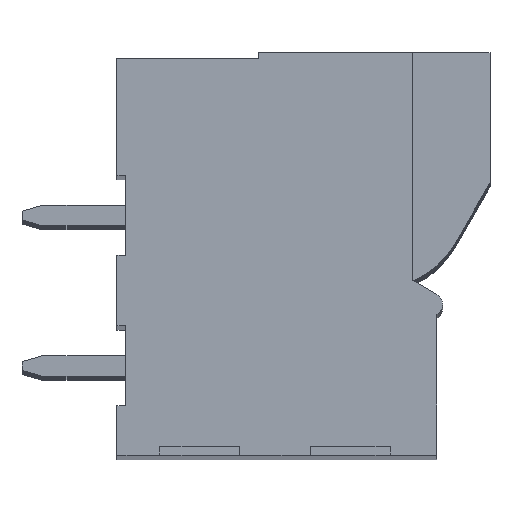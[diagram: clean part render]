
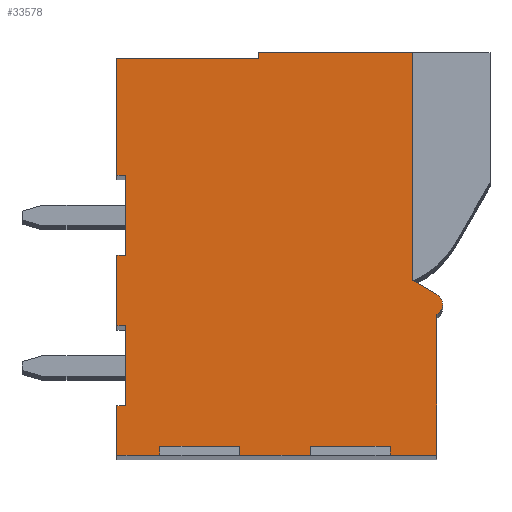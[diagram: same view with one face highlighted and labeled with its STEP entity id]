
A CAD part, top view. The second image highlights one B-rep face of the part: STEP entity #33578.
In plain terms, the highlighted planar face has unit normal (0, 0, 1).
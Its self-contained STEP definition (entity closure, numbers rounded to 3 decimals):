
#6372=CARTESIAN_POINT('',(10.604,5.094,0.));
#6373=DIRECTION('',(0.,0.,1.));
#6374=DIRECTION('',(0.495,-0.869,0.));
#6375=AXIS2_PLACEMENT_3D('',#6372,#6373,#6374);
#6377=DIRECTION('',(0.,1.,0.));
#6378=VECTOR('',#6377,0.2);
#6379=CARTESIAN_POINT('',(4.8,13.4,0.));
#6380=LINE('',#6379,#6378);
#6381=DIRECTION('',(1.,0.,0.));
#6382=VECTOR('',#6381,5.2);
#6383=CARTESIAN_POINT('',(4.8,13.6,0.));
#6384=LINE('',#6383,#6382);
#6385=DIRECTION('',(0.,-1.,0.));
#6386=VECTOR('',#6385,7.7);
#6387=CARTESIAN_POINT('',(10.,13.6,0.));
#6388=LINE('',#6387,#6386);
#6389=DIRECTION('',(0.866,-0.5,0.));
#6390=VECTOR('',#6389,0.926);
#6391=CARTESIAN_POINT('',(10.,5.9,0.));
#6392=LINE('',#6391,#6390);
#6393=DIRECTION('',(0.,-1.,0.));
#6394=VECTOR('',#6393,4.75);
#6395=CARTESIAN_POINT('',(10.8,4.75,0.));
#6396=LINE('',#6395,#6394);
#6397=DIRECTION('',(-1.,0.,0.));
#6398=VECTOR('',#6397,1.57);
#6399=CARTESIAN_POINT('',(10.8,0.,0.));
#6400=LINE('',#6399,#6398);
#6401=DIRECTION('',(0.,1.,0.));
#6402=VECTOR('',#6401,0.3);
#6403=CARTESIAN_POINT('',(9.23,0.,0.));
#6404=LINE('',#6403,#6402);
#6405=DIRECTION('',(-1.,0.,0.));
#6406=VECTOR('',#6405,2.7);
#6407=CARTESIAN_POINT('',(9.23,0.3,0.));
#6408=LINE('',#6407,#6406);
#6409=DIRECTION('',(0.,-1.,0.));
#6410=VECTOR('',#6409,0.3);
#6411=CARTESIAN_POINT('',(6.53,0.3,0.));
#6412=LINE('',#6411,#6410);
#6413=DIRECTION('',(-1.,0.,0.));
#6414=VECTOR('',#6413,2.38);
#6415=CARTESIAN_POINT('',(6.53,0.,0.));
#6416=LINE('',#6415,#6414);
#6417=DIRECTION('',(0.,1.,0.));
#6418=VECTOR('',#6417,0.3);
#6419=CARTESIAN_POINT('',(4.15,0.,0.));
#6420=LINE('',#6419,#6418);
#6421=DIRECTION('',(-1.,0.,0.));
#6422=VECTOR('',#6421,2.7);
#6423=CARTESIAN_POINT('',(4.15,0.3,0.));
#6424=LINE('',#6423,#6422);
#6425=DIRECTION('',(0.,-1.,0.));
#6426=VECTOR('',#6425,0.3);
#6427=CARTESIAN_POINT('',(1.45,0.3,0.));
#6428=LINE('',#6427,#6426);
#6429=DIRECTION('',(-1.,0.,0.));
#6430=VECTOR('',#6429,1.45);
#6431=CARTESIAN_POINT('',(1.45,0.,0.));
#6432=LINE('',#6431,#6430);
#6433=DIRECTION('',(0.,1.,0.));
#6434=VECTOR('',#6433,1.67);
#6435=CARTESIAN_POINT('',(0.,0.,0.));
#6436=LINE('',#6435,#6434);
#6437=DIRECTION('',(1.,0.,0.));
#6438=VECTOR('',#6437,0.3);
#6439=CARTESIAN_POINT('',(0.,1.67,0.));
#6440=LINE('',#6439,#6438);
#6441=DIRECTION('',(0.,1.,0.));
#6442=VECTOR('',#6441,2.7);
#6443=CARTESIAN_POINT('',(0.3,1.67,0.));
#6444=LINE('',#6443,#6442);
#6445=DIRECTION('',(-1.,0.,0.));
#6446=VECTOR('',#6445,0.3);
#6447=CARTESIAN_POINT('',(0.3,4.37,0.));
#6448=LINE('',#6447,#6446);
#6449=DIRECTION('',(0.,1.,0.));
#6450=VECTOR('',#6449,2.38);
#6451=CARTESIAN_POINT('',(0.,4.37,0.));
#6452=LINE('',#6451,#6450);
#6453=DIRECTION('',(1.,0.,0.));
#6454=VECTOR('',#6453,0.3);
#6455=CARTESIAN_POINT('',(0.,6.75,0.));
#6456=LINE('',#6455,#6454);
#6457=DIRECTION('',(0.,1.,0.));
#6458=VECTOR('',#6457,2.7);
#6459=CARTESIAN_POINT('',(0.3,6.75,0.));
#6460=LINE('',#6459,#6458);
#6461=DIRECTION('',(-1.,0.,0.));
#6462=VECTOR('',#6461,0.3);
#6463=CARTESIAN_POINT('',(0.3,9.45,0.));
#6464=LINE('',#6463,#6462);
#6465=DIRECTION('',(0.,1.,0.));
#6466=VECTOR('',#6465,3.95);
#6467=CARTESIAN_POINT('',(0.,9.45,0.));
#6468=LINE('',#6467,#6466);
#6469=DIRECTION('',(1.,0.,0.));
#6470=VECTOR('',#6469,4.8);
#6471=CARTESIAN_POINT('',(0.,13.4,0.));
#6472=LINE('',#6471,#6470);
#18735=CARTESIAN_POINT('',(10.,13.6,0.));
#18736=CARTESIAN_POINT('',(10.,5.9,0.));
#18737=VERTEX_POINT('',#18735);
#18738=VERTEX_POINT('',#18736);
#18739=CARTESIAN_POINT('',(4.8,13.6,0.));
#18740=VERTEX_POINT('',#18739);
#18741=CARTESIAN_POINT('',(4.8,13.4,0.));
#18742=VERTEX_POINT('',#18741);
#18743=CARTESIAN_POINT('',(0.,13.4,0.));
#18744=VERTEX_POINT('',#18743);
#18745=CARTESIAN_POINT('',(0.,9.45,0.));
#18746=VERTEX_POINT('',#18745);
#18747=CARTESIAN_POINT('',(0.3,9.45,0.));
#18748=VERTEX_POINT('',#18747);
#18749=CARTESIAN_POINT('',(0.3,6.75,0.));
#18750=VERTEX_POINT('',#18749);
#18751=CARTESIAN_POINT('',(0.,6.75,0.));
#18752=VERTEX_POINT('',#18751);
#18753=CARTESIAN_POINT('',(0.,4.37,0.));
#18754=VERTEX_POINT('',#18753);
#18755=CARTESIAN_POINT('',(0.3,4.37,0.));
#18756=VERTEX_POINT('',#18755);
#18757=CARTESIAN_POINT('',(0.3,1.67,0.));
#18758=VERTEX_POINT('',#18757);
#18759=CARTESIAN_POINT('',(0.,1.67,0.));
#18760=VERTEX_POINT('',#18759);
#18761=CARTESIAN_POINT('',(0.,0.,0.));
#18762=VERTEX_POINT('',#18761);
#18763=CARTESIAN_POINT('',(1.45,0.,0.));
#18764=VERTEX_POINT('',#18763);
#18765=CARTESIAN_POINT('',(1.45,0.3,0.));
#18766=VERTEX_POINT('',#18765);
#18767=CARTESIAN_POINT('',(4.15,0.3,0.));
#18768=VERTEX_POINT('',#18767);
#18769=CARTESIAN_POINT('',(4.15,0.,0.));
#18770=VERTEX_POINT('',#18769);
#18771=CARTESIAN_POINT('',(6.53,0.,0.));
#18772=VERTEX_POINT('',#18771);
#18773=CARTESIAN_POINT('',(6.53,0.3,0.));
#18774=VERTEX_POINT('',#18773);
#18775=CARTESIAN_POINT('',(9.23,0.3,0.));
#18776=VERTEX_POINT('',#18775);
#18777=CARTESIAN_POINT('',(9.23,0.,0.));
#18778=VERTEX_POINT('',#18777);
#18779=CARTESIAN_POINT('',(10.8,0.,0.));
#18780=VERTEX_POINT('',#18779);
#18781=CARTESIAN_POINT('',(10.8,4.75,0.));
#18782=VERTEX_POINT('',#18781);
#18783=CARTESIAN_POINT('',(10.802,5.437,0.));
#18784=VERTEX_POINT('',#18783);
#33531=CARTESIAN_POINT('',(5.5,6.8,0.));
#33532=DIRECTION('',(0.,0.,1.));
#33533=DIRECTION('',(0.,-1.,0.));
#33534=AXIS2_PLACEMENT_3D('',#33531,#33532,#33533);
#33535=PLANE('',#33534);
#33537=ORIENTED_EDGE('',*,*,#33536,.T.);
#33538=ORIENTED_EDGE('',*,*,#28706,.T.);
#33540=ORIENTED_EDGE('',*,*,#33539,.T.);
#33541=ORIENTED_EDGE('',*,*,#24854,.T.);
#33542=ORIENTED_EDGE('',*,*,#33495,.F.);
#33543=ORIENTED_EDGE('',*,*,#33481,.T.);
#33544=ORIENTED_EDGE('',*,*,#33467,.T.);
#33546=ORIENTED_EDGE('',*,*,#33545,.T.);
#33548=ORIENTED_EDGE('',*,*,#33547,.T.);
#33550=ORIENTED_EDGE('',*,*,#33549,.T.);
#33551=ORIENTED_EDGE('',*,*,#33459,.T.);
#33553=ORIENTED_EDGE('',*,*,#33552,.T.);
#33555=ORIENTED_EDGE('',*,*,#33554,.T.);
#33557=ORIENTED_EDGE('',*,*,#33556,.T.);
#33558=ORIENTED_EDGE('',*,*,#33451,.T.);
#33559=ORIENTED_EDGE('',*,*,#33437,.T.);
#33560=ORIENTED_EDGE('',*,*,#33423,.T.);
#33561=ORIENTED_EDGE('',*,*,#29825,.T.);
#33563=ORIENTED_EDGE('',*,*,#33562,.T.);
#33565=ORIENTED_EDGE('',*,*,#33564,.T.);
#33567=ORIENTED_EDGE('',*,*,#33566,.T.);
#33569=ORIENTED_EDGE('',*,*,#33568,.T.);
#33571=ORIENTED_EDGE('',*,*,#33570,.T.);
#33573=ORIENTED_EDGE('',*,*,#33572,.T.);
#33575=ORIENTED_EDGE('',*,*,#33574,.T.);
#33576=EDGE_LOOP('',(#33537,#33538,#33540,#33541,#33542,#33543,#33544,#33546,
#33548,#33550,#33551,#33553,#33555,#33557,#33558,#33559,#33560,#33561,#33563,
#33565,#33567,#33569,#33571,#33573,#33575));
#33577=FACE_OUTER_BOUND('',#33576,.F.);
#6376=CIRCLE('',#6375,0.396);
#24854=EDGE_CURVE('',#18738,#18784,#6392,.T.);
#28706=EDGE_CURVE('',#18740,#18737,#6384,.T.);
#29825=EDGE_CURVE('',#18758,#18756,#6444,.T.);
#33423=EDGE_CURVE('',#18760,#18758,#6440,.T.);
#33437=EDGE_CURVE('',#18762,#18760,#6436,.T.);
#33451=EDGE_CURVE('',#18764,#18762,#6432,.T.);
#33459=EDGE_CURVE('',#18772,#18770,#6416,.T.);
#33467=EDGE_CURVE('',#18780,#18778,#6400,.T.);
#33481=EDGE_CURVE('',#18782,#18780,#6396,.T.);
#33495=EDGE_CURVE('',#18782,#18784,#6376,.T.);
#33536=EDGE_CURVE('',#18742,#18740,#6380,.T.);
#33539=EDGE_CURVE('',#18737,#18738,#6388,.T.);
#33545=EDGE_CURVE('',#18778,#18776,#6404,.T.);
#33547=EDGE_CURVE('',#18776,#18774,#6408,.T.);
#33549=EDGE_CURVE('',#18774,#18772,#6412,.T.);
#33552=EDGE_CURVE('',#18770,#18768,#6420,.T.);
#33554=EDGE_CURVE('',#18768,#18766,#6424,.T.);
#33556=EDGE_CURVE('',#18766,#18764,#6428,.T.);
#33562=EDGE_CURVE('',#18756,#18754,#6448,.T.);
#33564=EDGE_CURVE('',#18754,#18752,#6452,.T.);
#33566=EDGE_CURVE('',#18752,#18750,#6456,.T.);
#33568=EDGE_CURVE('',#18750,#18748,#6460,.T.);
#33570=EDGE_CURVE('',#18748,#18746,#6464,.T.);
#33572=EDGE_CURVE('',#18746,#18744,#6468,.T.);
#33574=EDGE_CURVE('',#18744,#18742,#6472,.T.);
#33578=ADVANCED_FACE('',(#33577),#33535,.T.);
